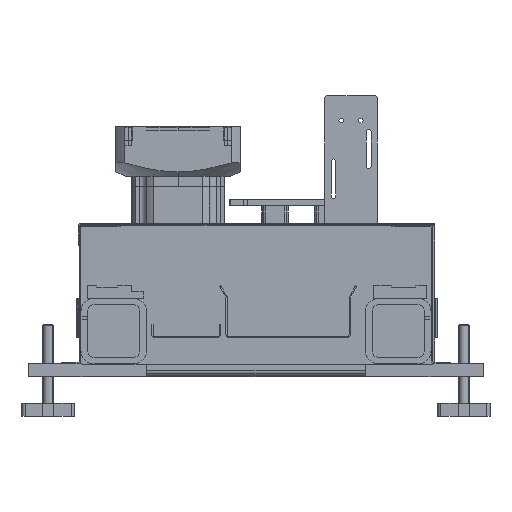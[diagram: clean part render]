
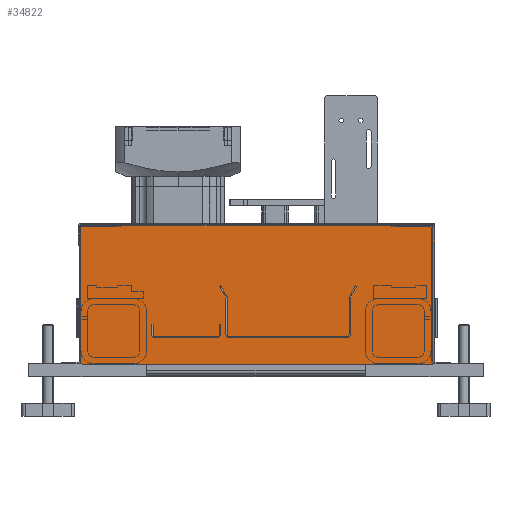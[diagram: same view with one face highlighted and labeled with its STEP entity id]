
A CAD part, front view. The second image highlights one B-rep face of the part: STEP entity #34822.
In plain terms, the highlighted planar face has unit normal (0, -1, 0) as drawn and (0, 0, -1) by its records, which use the part's own axes.
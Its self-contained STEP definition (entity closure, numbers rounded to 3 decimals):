
#663 = EDGE_CURVE ( 'NONE', #24415, #21777, #91730, .T. ) ;
#2473 = DIRECTION ( 'NONE',  ( 0., 1., 0. ) ) ;
#3378 = DIRECTION ( 'NONE',  ( 1., 0., 0. ) ) ;
#3543 = LINE ( 'NONE', #30394, #100940 ) ;
#3988 = CARTESIAN_POINT ( 'NONE',  ( -270., -67., -2. ) ) ;
#6018 = CARTESIAN_POINT ( 'NONE',  ( -270., -108., -2. ) ) ;
#9125 = CARTESIAN_POINT ( 'NONE',  ( 270., -103., -2. ) ) ;
#11643 = CARTESIAN_POINT ( 'NONE',  ( -270., -67., -2. ) ) ;
#15770 = ORIENTED_EDGE ( 'NONE', *, *, #58188, .T. ) ;
#18242 = EDGE_CURVE ( 'NONE', #18454, #67453, #102339, .T. ) ;
#18454 = VERTEX_POINT ( 'NONE', #3988 ) ;
#18984 = DIRECTION ( 'NONE',  ( 0., 1., 0. ) ) ;
#20146 = VERTEX_POINT ( 'NONE', #62270 ) ;
#20922 = CIRCLE ( 'NONE', #47375, 5. ) ;
#21060 = CARTESIAN_POINT ( 'NONE',  ( 0., 0., -2. ) ) ;
#21777 = VERTEX_POINT ( 'NONE', #25398 ) ;
#23643 = CARTESIAN_POINT ( 'NONE',  ( 265., -108., -2. ) ) ;
#24415 = VERTEX_POINT ( 'NONE', #9125 ) ;
#24469 = CARTESIAN_POINT ( 'NONE',  ( 270., -108., -2. ) ) ;
#25398 = CARTESIAN_POINT ( 'NONE',  ( 270., -67., -2. ) ) ;
#26683 = ORIENTED_EDGE ( 'NONE', *, *, #58937, .T. ) ;
#30394 = CARTESIAN_POINT ( 'NONE',  ( 270., -7., -2. ) ) ;
#30565 = DIRECTION ( 'NONE',  ( 1., 0., 0. ) ) ;
#30916 = VERTEX_POINT ( 'NONE', #79891 ) ;
#33169 = DIRECTION ( 'NONE',  ( 1., 0., 0. ) ) ;
#33974 = CARTESIAN_POINT ( 'NONE',  ( -270., -103., -2. ) ) ;
#34822 = ADVANCED_FACE ( 'NONE', ( #93761 ), #55533, .F. ) ;
#36076 = CARTESIAN_POINT ( 'NONE',  ( 270., -108., -2. ) ) ;
#37058 = LINE ( 'NONE', #37084, #87714 ) ;
#37084 = CARTESIAN_POINT ( 'NONE',  ( -270., 104., -2. ) ) ;
#37416 = EDGE_CURVE ( 'NONE', #30916, #47686, #37058, .T. ) ;
#38441 = CARTESIAN_POINT ( 'NONE',  ( -265., -108., -2. ) ) ;
#38779 = ORIENTED_EDGE ( 'NONE', *, *, #663, .F. ) ;
#39126 = VECTOR ( 'NONE', #2473, 1000. ) ;
#40993 = CARTESIAN_POINT ( 'NONE',  ( -270., -108., -2. ) ) ;
#42317 = CARTESIAN_POINT ( 'NONE',  ( 270., -108., -2. ) ) ;
#43649 = VECTOR ( 'NONE', #83981, 1000. ) ;
#45738 = DIRECTION ( 'NONE',  ( 0., 0., -1. ) ) ;
#46995 = LINE ( 'NONE', #6018, #52512 ) ;
#47375 = AXIS2_PLACEMENT_3D ( 'NONE', #75748, #93083, #33169 ) ;
#47686 = VERTEX_POINT ( 'NONE', #98179 ) ;
#50742 = EDGE_CURVE ( 'NONE', #20146, #47686, #53495, .T. ) ;
#52512 = VECTOR ( 'NONE', #111792, 1000. ) ;
#53495 = LINE ( 'NONE', #24469, #74030 ) ;
#53865 = ORIENTED_EDGE ( 'NONE', *, *, #82711, .T. ) ;
#55533 = PLANE ( 'NONE',  #108410 ) ;
#57057 = ORIENTED_EDGE ( 'NONE', *, *, #50742, .F. ) ;
#58188 = EDGE_CURVE ( 'NONE', #24415, #95170, #20922, .T. ) ;
#58937 = EDGE_CURVE ( 'NONE', #85463, #66700, #103196, .T. ) ;
#60686 = LINE ( 'NONE', #36076, #107316 ) ;
#62270 = CARTESIAN_POINT ( 'NONE',  ( 270., -7., -2. ) ) ;
#62331 = ORIENTED_EDGE ( 'NONE', *, *, #37416, .T. ) ;
#66700 = VERTEX_POINT ( 'NONE', #33974 ) ;
#67453 = VERTEX_POINT ( 'NONE', #97198 ) ;
#68394 = VECTOR ( 'NONE', #18984, 1000. ) ;
#71779 = CARTESIAN_POINT ( 'NONE',  ( -265., -103., -2. ) ) ;
#72468 = LINE ( 'NONE', #40993, #43649 ) ;
#74030 = VECTOR ( 'NONE', #76580, 1000. ) ;
#75169 = EDGE_CURVE ( 'NONE', #18454, #66700, #46995, .T. ) ;
#75748 = CARTESIAN_POINT ( 'NONE',  ( 265., -103., -2. ) ) ;
#76580 = DIRECTION ( 'NONE',  ( 0., 1., 0. ) ) ;
#78033 = ORIENTED_EDGE ( 'NONE', *, *, #88015, .F. ) ;
#79891 = CARTESIAN_POINT ( 'NONE',  ( -270., 104., -2. ) ) ;
#80088 = EDGE_CURVE ( 'NONE', #30916, #67453, #72468, .T. ) ;
#80229 = DIRECTION ( 'NONE',  ( 1., 0., 0. ) ) ;
#82711 = EDGE_CURVE ( 'NONE', #20146, #21777, #3543, .T. ) ;
#83981 = DIRECTION ( 'NONE',  ( 0., -1., 0. ) ) ;
#85463 = VERTEX_POINT ( 'NONE', #38441 ) ;
#87714 = VECTOR ( 'NONE', #3378, 1000. ) ;
#87936 = ORIENTED_EDGE ( 'NONE', *, *, #80088, .F. ) ;
#88015 = EDGE_CURVE ( 'NONE', #85463, #95170, #60686, .T. ) ;
#91730 = LINE ( 'NONE', #42317, #68394 ) ;
#93083 = DIRECTION ( 'NONE',  ( 0., 0., -1. ) ) ;
#93761 = FACE_OUTER_BOUND ( 'NONE', #99907, .T. ) ;
#95170 = VERTEX_POINT ( 'NONE', #23643 ) ;
#97198 = CARTESIAN_POINT ( 'NONE',  ( -270., -7., -2. ) ) ;
#98179 = CARTESIAN_POINT ( 'NONE',  ( 270., 104., -2. ) ) ;
#99267 = DIRECTION ( 'NONE',  ( 0., 0., 1. ) ) ;
#99907 = EDGE_LOOP ( 'NONE', ( #78033, #26683, #112076, #110869, #87936, #62331, #57057, #53865, #38779, #15770 ) ) ;
#100940 = VECTOR ( 'NONE', #108626, 1000. ) ;
#102339 = LINE ( 'NONE', #11643, #39126 ) ;
#103196 = CIRCLE ( 'NONE', #108547, 5. ) ;
#107069 = DIRECTION ( 'NONE',  ( 1., 0., 0. ) ) ;
#107316 = VECTOR ( 'NONE', #80229, 1000. ) ;
#108410 = AXIS2_PLACEMENT_3D ( 'NONE', #21060, #99267, #30565 ) ;
#108547 = AXIS2_PLACEMENT_3D ( 'NONE', #71779, #45738, #107069 ) ;
#108626 = DIRECTION ( 'NONE',  ( 0., -1., 0. ) ) ;
#110869 = ORIENTED_EDGE ( 'NONE', *, *, #18242, .T. ) ;
#111792 = DIRECTION ( 'NONE',  ( 0., -1., 0. ) ) ;
#112076 = ORIENTED_EDGE ( 'NONE', *, *, #75169, .F. ) ;
